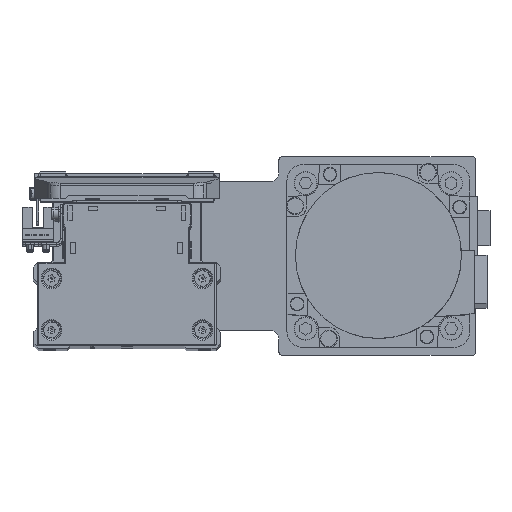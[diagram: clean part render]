
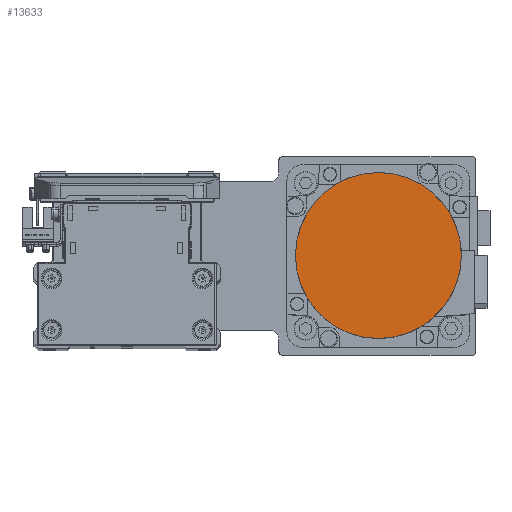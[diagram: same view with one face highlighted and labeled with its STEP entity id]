
A CAD part, top view. The second image highlights one B-rep face of the part: STEP entity #13633.
In plain terms, the highlighted planar face has unit normal (0, 0, 1) as drawn and (0, 0, -1) by its records, which use the part's own axes.
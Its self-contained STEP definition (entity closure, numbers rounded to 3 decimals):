
#3304 = AXIS2_PLACEMENT_3D ( 'NONE', #36537, #9160, #21359 ) ;
#4044 = EDGE_LOOP ( 'NONE', ( #24953, #10553 ) ) ;
#5934 = DIRECTION ( 'NONE',  ( 0., 0., 1. ) ) ;
#8139 = VERTEX_POINT ( 'NONE', #10807 ) ;
#8839 = EDGE_CURVE ( 'NONE', #8139, #20943, #13891, .T. ) ;
#9160 = DIRECTION ( 'NONE',  ( 0., 0., 1. ) ) ;
#10330 = CARTESIAN_POINT ( 'NONE',  ( 0., 0., -122.2 ) ) ;
#10553 = ORIENTED_EDGE ( 'NONE', *, *, #19686, .F. ) ;
#10807 = CARTESIAN_POINT ( 'NONE',  ( 0., 36.3, -122.2 ) ) ;
#11649 = CIRCLE ( 'NONE', #33970, 36.3 ) ;
#12177 = FACE_OUTER_BOUND ( 'NONE', #4044, .T. ) ;
#13633 = ADVANCED_FACE ( 'NONE', ( #12177 ), #24347, .F. ) ;
#13891 = CIRCLE ( 'NONE', #36208, 36.3 ) ;
#15802 = CARTESIAN_POINT ( 'NONE',  ( 0., -36.3, -122.2 ) ) ;
#18122 = DIRECTION ( 'NONE',  ( 0., 1., 0. ) ) ;
#19686 = EDGE_CURVE ( 'NONE', #20943, #8139, #11649, .T. ) ;
#20943 = VERTEX_POINT ( 'NONE', #15802 ) ;
#21359 = DIRECTION ( 'NONE',  ( 1., 0., 0. ) ) ;
#22521 = DIRECTION ( 'NONE',  ( 0., 0., 1. ) ) ;
#24347 = PLANE ( 'NONE',  #3304 ) ;
#24953 = ORIENTED_EDGE ( 'NONE', *, *, #8839, .F. ) ;
#33319 = CARTESIAN_POINT ( 'NONE',  ( 0., 0., -122.2 ) ) ;
#33970 = AXIS2_PLACEMENT_3D ( 'NONE', #10330, #22521, #34709 ) ;
#34709 = DIRECTION ( 'NONE',  ( 0., -1., 0. ) ) ;
#36208 = AXIS2_PLACEMENT_3D ( 'NONE', #33319, #5934, #18122 ) ;
#36537 = CARTESIAN_POINT ( 'NONE',  ( 0., 0., -122.2 ) ) ;
